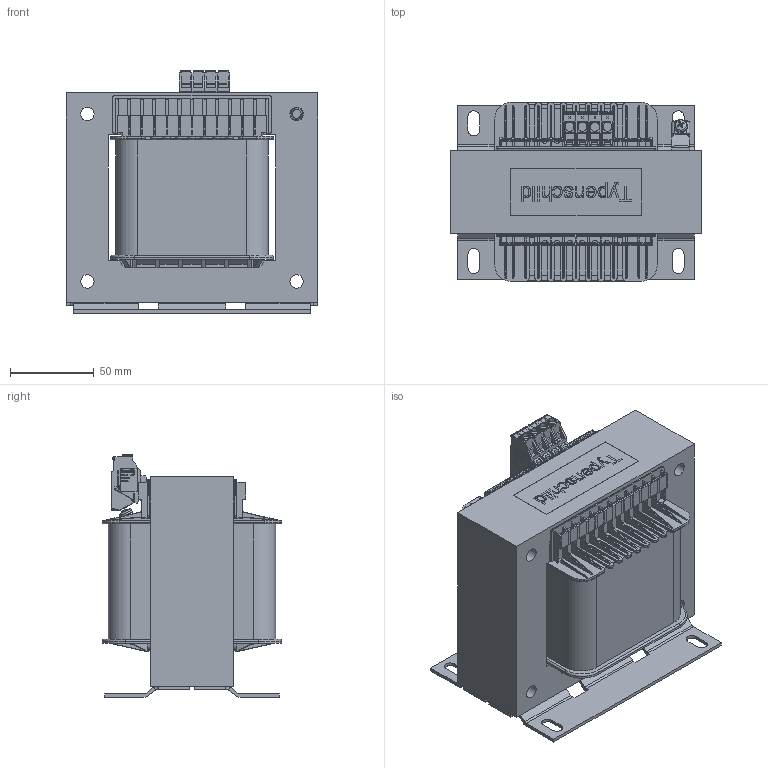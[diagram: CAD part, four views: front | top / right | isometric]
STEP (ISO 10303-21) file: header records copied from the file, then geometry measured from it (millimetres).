
FILE_DESCRIPTION(/* description */ (''),/* implementation_level */ '2;1');
FILE_NAME(/* name */ 'ET0,8 100-690V_42V.stp',/* time_stamp */ '2023-08-31T17:04:09+02:00',/* author */ ('EnneJ'),/* organization */ (''),/* preprocessor_version */ 'ST-DEVELOPER v19.2',/* originating_system */ 'Autodesk Inventor 2023',/* authorisation */ '');
FILE_SCHEMA (('AUTOMOTIVE_DESIGN { 1 0 10303 214 3 1 1 }'));
Products named in the file (12): X0001 ET 002; Erdung 45°; Bauteil2; erd 90 001; M4-8; DIN7337 A4,8x16; Bauteil28; EI150Na_49_6_AK_25272_0_1Ka_Wz711_1; Norm (DIN); FUP_EI150; Leistungsschild 78x28; 1222_TKS_4_1
Assembly tree (15 placements, depth 3):
  X0001 ET 002
    Erdung 45°
      Bauteil2
      erd 90 001
      M4-8
    DIN7337 A4,8x16
    Bauteil28
    EI150Na_49_6_AK_25272_0_1Ka_Wz711_1
    Norm (DIN)
    FUP_EI150  x2
    1222_TKS_4_1  x4
    Leistungsschild 78x28
Bounding box: 150.3 x 107 x 144.75 mm (x, y, z)
Volume: 1226555.1 mm3; surface area: 262631 mm2
Topology: 14 solids, 14 shells, 6575 faces, 18393 edges, 11978 vertices
Faces by surface type: plane 5287, cylinder 846, bspline 247, torus 182, cone 12, sphere 1
Full cylindrical faces by diameter (mm): 3.242 x1, 3.621 x1, 4 x2, 4.5 x1, 4.8 x1, 5 x1, 8 x4, 9.5 x1
Entity records: 81590 total; most frequent: CARTESIAN_POINT 17030, ORIENTED_EDGE 13852, DIRECTION 12683, EDGE_CURVE 6926, LINE 5511, VECTOR 5511, VERTEX_POINT 4471, AXIS2_PLACEMENT_3D 3586
